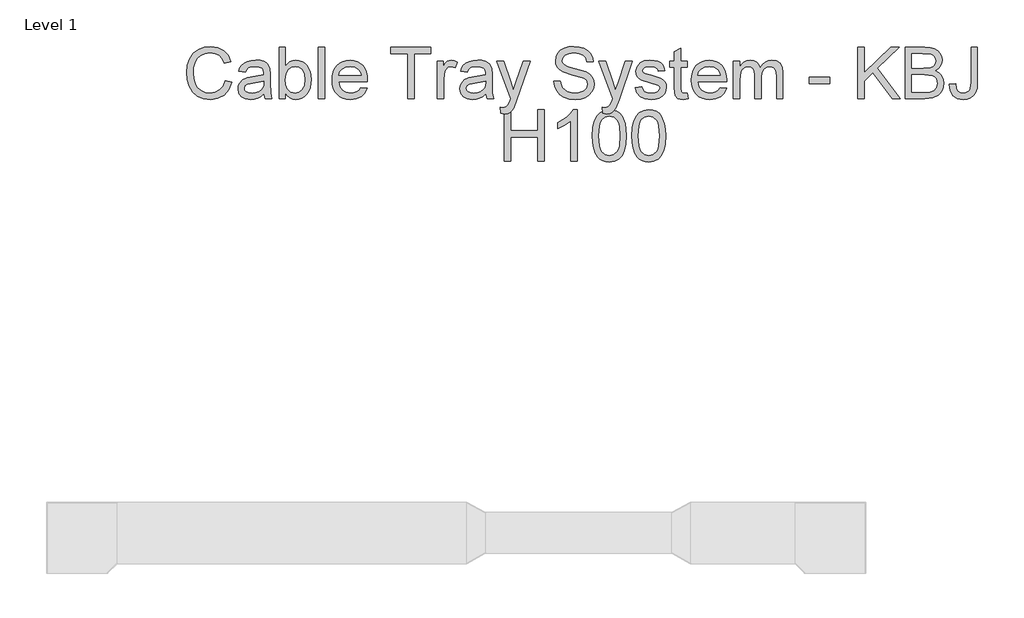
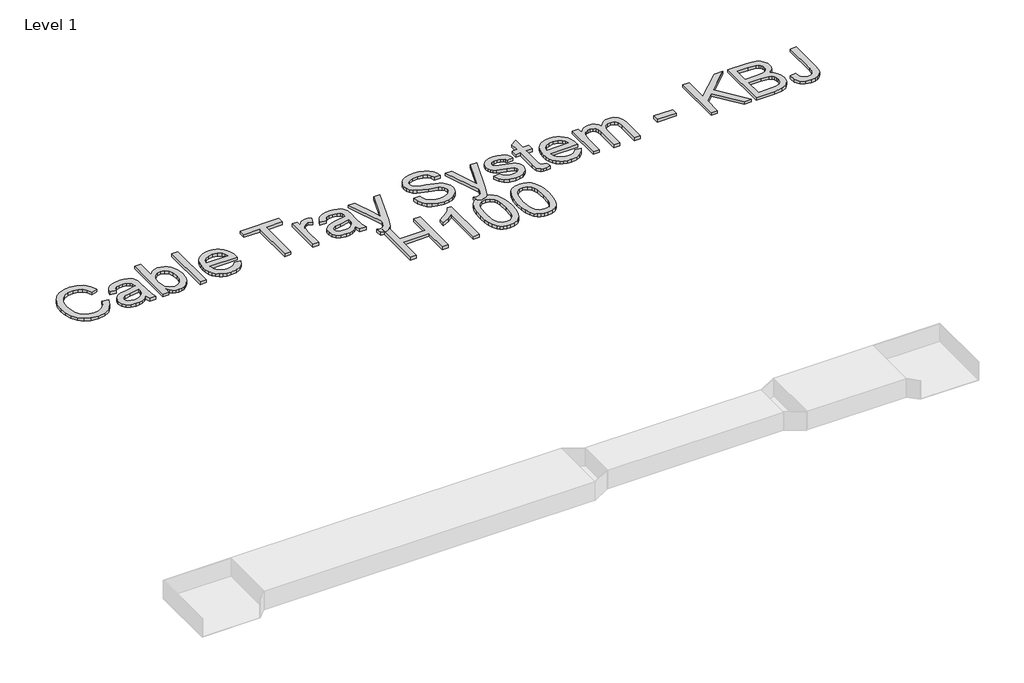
# One storey, part 104 of 106: 1 proxy.
"""IFC4 building model written with IfcOpenShell, lengths in millimetres."""

from ifc_helpers import new_model, si_unit, origin, origin_with_axes, place, context, project, spatial, polyline, outline, extrude, element, save

model = new_model("IFC4")

# Units and contexts
model_context = context("Model", 3, world=origin())
ifc_project = project(units=[si_unit("LENGTHUNIT", "METRE", prefix="MILLI")], contexts=[model_context])

# Site, building, storey
site = spatial("IfcSite", under=ifc_project)
building = spatial("IfcBuilding", under=site)
storey = spatial("IfcBuildingStorey", under=building, Name="Level 1", Elevation=0.0)

# Proxy
placement = place(None, origin())
element("IfcBuildingElementProxy", 1, Name="250mm Arial 3", ObjectType="250mm Arial 3", at=placement, inside=storey, context=model_context, shape_type="SweptSolid", body=[
    extrude(outline(polyline([(157679.2490117, 71592.4106539), (157710.6416086, 71584.31725), (157696.1562551, 71547.7359841), (157673.4242135, 71521.01089), (157643.5644582, 71504.6631338), (157607.6959637, 71499.2138818), (157571.2833103, 71503.3372258), (157542.3662527, 71515.7072579), (157520.2013625, 71535.8947824), (157504.0452115, 71563.4706036), (157494.1813755, 71595.8902044), (157490.8934302, 71630.6090677), (157494.6105712, 71667.2286547), (157505.7619942, 71698.8511778), (157523.7652193, 71724.472626), (157548.0377668, 71743.0889877), (157576.8245329, 71754.4243517), (157608.370414, 71758.2028064), (157642.7903732, 71753.3130415), (157671.2475783, 71738.643747), (157692.8529813, 71715.0992993), (157706.717534, 71683.584075), (157675.3249371, 71676.1038078), (157664.4417614, 71698.9967978), (157649.5731974, 71714.7007605), (157630.5353042, 71723.7828472), (157607.1441407, 71726.8102095), (157580.1814561, 71723.4532863), (157558.0318943, 71713.3825166), (157541.2242857, 71697.6555613), (157530.2874605, 71677.3300811), (157524.2863855, 71654.3527848), (157522.2860271, 71630.6703814), (157524.6542675, 71601.6690174), (157531.7589885, 71576.5917281), (157543.8684375, 71556.3965394), (157561.2508618, 71542.0414774), (157582.089844, 71533.4652284), (157604.5689667, 71530.6064787), (157630.7728947, 71534.4998965), (157652.6082239, 71546.1801498), (157669.0939358, 71565.5246114), (157679.2490117, 71592.4106539)])), origin_with_axes(), (0.0, 0.0, 1.0), 15.0),
    extrude(outline(polyline([(157867.6045933, 71526.6824041), (157852.6057377, 71513.8218627), (157837.1623582, 71505.406562), (157820.9219009, 71500.7620518), (157803.5318124, 71499.2138818), (157777.2972276, 71502.938687), (157757.9451019, 71514.1131026), (157746.0119296, 71531.0816596), (157742.0342056, 71552.1888891), (157743.5363904, 71565.2027147), (157748.0429448, 71577.0209238), (157763.8312138, 71595.0471415), (157785.812163, 71605.3478374), (157812.974117, 71610.0689897), (157867.4206523, 71620.8601949), (157867.6045933, 71627.8499528), (157865.4432865, 71641.8601254), (157858.9593664, 71651.0265185), (157844.4586844, 71657.8323354), (157824.2558315, 71660.100941), (157805.5551634, 71658.591092), (157792.4953526, 71654.0615449), (157783.5895426, 71645.6845653), (157777.3508771, 71632.6324187), (157745.9582802, 71636.5564933), (157751.4075322, 71653.7243198), (157759.5392572, 71667.2133262), (157771.1122116, 71677.5293505), (157786.8851521, 71685.1782303), (157806.1759643, 71689.914711), (157828.3025334, 71691.4935379), (157849.524726, 71690.098652), (157866.3476631, 71685.9139943), (157879.0319277, 71679.6216794), (157887.838103, 71671.9038217), (157897.4643485, 71650.5973228), (157898.9971902, 71623.1288005), (157898.9971902, 71584.0719953), (157900.5913455, 71529.5334895), (157906.8453394, 71503.1379564), (157875.4527425, 71503.1379564), (157867.6045933, 71526.6824041)]), holes=[polyline([(157867.6045933, 71589.4675979), (157816.9595053, 71579.8413524), (157789.9508354, 71574.7523181), (157777.7187591, 71566.4749732), (157773.4268025, 71554.3961811), (157775.764386, 71545.0611754), (157782.7771365, 71537.4122956), (157794.3117699, 71532.3079329), (157810.215002, 71530.6064787), (157827.0762601, 71532.4842097), (157841.9754809, 71538.1174028), (157854.0542731, 71546.4177403), (157862.4542453, 71556.2969047), (157866.1790505, 71566.4749732), (157867.4206523, 71580.5771164), (157867.6045933, 71589.4675979)])]), origin_with_axes(), (0.0, 0.0, 1.0), 15.0),
    extrude(outline(polyline([(157973.5546079, 71503.1379564), (157942.1620109, 71503.1379564), (157942.1620109, 71754.2787318), (157973.5546079, 71754.2787318), (157973.5546079, 71661.1432733), (157983.8782964, 71674.4215141), (157995.5355571, 71683.9059718), (158008.52639, 71689.5966464), (158022.8507952, 71691.4935379), (158039.0222746, 71689.7844195), (158054.3047058, 71684.6570642), (158067.8243691, 71676.4333687), (158078.7075448, 71665.4352299), (158093.6987361, 71635.5448178), (158099.1249956, 71598.1128248), (158093.5071309, 71556.2049342), (158086.4848001, 71539.2746982), (158076.653537, 71525.0269351), (158064.8525724, 71513.7337243), (158051.921137, 71505.6671451), (158037.859231, 71500.8271976), (158022.6668542, 71499.2138818), (158007.8711002, 71501.2947143), (157994.7538078, 71507.5372119), (157983.314977, 71517.9413746), (157973.5546079, 71532.5072023), (157973.5546079, 71503.1379564)]), holes=[polyline([(157973.5546079, 71596.6412968), (157975.7005862, 71570.4603615), (157982.1385211, 71552.7407121), (157998.585912, 71536.140037), (158019.9690529, 71530.6064787), (158038.0872412, 71534.6838375), (158053.5689418, 71546.9159138), (158064.1915344, 71567.2260656), (158067.7323986, 71595.5376509), (158064.3371544, 71624.2631033), (158054.1514216, 71644.3433289), (158039.1525661, 71656.161538), (158021.3179536, 71660.100941), (158003.1997653, 71656.0235822), (157987.7180647, 71643.7915059), (157977.0954721, 71623.8492361), (157973.5546079, 71596.6412968)])]), origin_with_axes(), (0.0, 0.0, 1.0), 15.0),
    extrude(outline(polyline([(158134.4416671, 71503.1379564), (158134.4416671, 71754.2787318), (158165.834264, 71754.2787318), (158165.834264, 71503.1379564), (158134.4416671, 71503.1379564)])), origin_with_axes(), (0.0, 0.0, 1.0), 15.0),
    extrude(outline(polyline([(158342.0497397, 71558.075001), (158372.8292, 71554.1509264), (158361.7390907, 71530.9590323), (158344.0424338, 71513.6225933), (158320.1377684, 71502.8160596), (158290.423633, 71499.2138818), (158270.9450478, 71500.7678), (158253.5894483, 71505.4295547), (158238.3568344, 71513.1991458), (158225.2472062, 71524.0765733), (158214.7050878, 71537.759101), (158207.1750032, 71553.9439928), (158202.6569525, 71572.6312485), (158201.1509355, 71593.8208682), (158202.6722809, 71615.7290074), (158207.2363169, 71635.0389801), (158214.8430436, 71651.7507861), (158225.4924609, 71665.8644256), (158238.5676001, 71677.0771622), (158253.4514925, 71685.0862598), (158270.1441381, 71689.8917184), (158288.6455367, 71691.4935379), (158306.5510432, 71689.8955505), (158322.7435992, 71685.1015883), (158337.2232046, 71677.1116512), (158349.9898594, 71665.9257393), (158360.4112666, 71651.8427566), (158367.8551288, 71635.1616074), (158372.3214462, 71615.8822916), (158373.8102186, 71594.0048092), (158373.6262776, 71585.5435233), (158232.5435325, 71585.5435233), (158237.9774561, 71562.0450609), (158250.6004071, 71544.7699355), (158268.81823, 71534.1473429), (158291.0367697, 71530.6064787), (158307.7447437, 71532.2466193), (158321.81623, 71537.1670409), (158333.2512286, 71545.6743121), (158342.0497397, 71558.075001)]), holes=[polyline([(158232.5435325, 71616.9361202), (158342.4176217, 71616.9361202), (158338.1716503, 71633.5214669), (158329.8483202, 71645.3856612), (158311.5461909, 71656.4221211), (158288.5229094, 71660.100941), (158267.3620305, 71657.1655493), (158249.8646431, 71648.359374), (158237.7015446, 71634.632777), (158232.5435325, 71616.9361202)])]), origin_with_axes(), (0.0, 0.0, 1.0), 15.0),
    extrude(outline(polyline([(158570.0139494, 71503.1379564), (158570.0139494, 71722.8861348), (158487.6083825, 71722.8861348), (158487.6083825, 71754.2787318), (158683.8121132, 71754.2787318), (158683.8121132, 71722.8861348), (158601.4065463, 71722.8861348), (158601.4065463, 71503.1379564), (158570.0139494, 71503.1379564)])), origin_with_axes(), (0.0, 0.0, 1.0), 15.0),
    extrude(outline(polyline([(158715.2047101, 71503.1379564), (158715.2047101, 71687.5694633), (158742.6732324, 71687.5694633), (158742.6732324, 71660.284882), (158752.8206441, 71676.1038078), (158762.1709782, 71685.423485), (158781.7913513, 71691.4935379), (158797.4263361, 71689.0716481), (158813.3065755, 71681.8059787), (158802.8219387, 71653.6630061), (158780.7490189, 71660.100941), (158771.3756923, 71658.5527709), (158762.9987127, 71653.9082608), (158751.6863413, 71636.7404343), (158746.5973071, 71600.0748621), (158746.5973071, 71503.1379564), (158715.2047101, 71503.1379564)])), origin_with_axes(), (0.0, 0.0, 1.0), 15.0),
    extrude(outline(polyline([(158950.6491871, 71526.6824041), (158935.6503315, 71513.8218627), (158920.206952, 71505.406562), (158903.9664947, 71500.7620518), (158886.5764062, 71499.2138818), (158860.3418214, 71502.938687), (158840.9896957, 71514.1131026), (158829.0565234, 71531.0816596), (158825.0787994, 71552.1888891), (158826.5809842, 71565.2027147), (158831.0875386, 71577.0209238), (158846.8758076, 71595.0471415), (158868.8567568, 71605.3478374), (158896.0187108, 71610.0689897), (158950.4652461, 71620.8601949), (158950.6491871, 71627.8499528), (158948.4878803, 71641.8601254), (158942.0039602, 71651.0265185), (158927.5032782, 71657.8323354), (158907.3004253, 71660.100941), (158888.5997572, 71658.591092), (158875.5399464, 71654.0615449), (158866.6341364, 71645.6845653), (158860.3954709, 71632.6324187), (158829.002874, 71636.5564933), (158834.452126, 71653.7243198), (158842.583851, 71667.2133262), (158854.1568054, 71677.5293505), (158869.9297459, 71685.1782303), (158889.2205581, 71689.914711), (158911.3471272, 71691.4935379), (158932.5693198, 71690.098652), (158949.3922569, 71685.9139943), (158962.0765215, 71679.6216794), (158970.8826968, 71671.9038217), (158980.5089423, 71650.5973228), (158982.041784, 71623.1288005), (158982.041784, 71584.0719953), (158983.6359393, 71529.5334895), (158989.8899332, 71503.1379564), (158958.4973363, 71503.1379564), (158950.6491871, 71526.6824041)]), holes=[polyline([(158950.6491871, 71589.4675979), (158900.0040991, 71579.8413524), (158872.9954292, 71574.7523181), (158860.7633529, 71566.4749732), (158856.4713963, 71554.3961811), (158858.8089798, 71545.0611754), (158865.8217303, 71537.4122956), (158877.3563637, 71532.3079329), (158893.2595958, 71530.6064787), (158910.1208539, 71532.4842097), (158925.0200747, 71538.1174028), (158937.0988669, 71546.4177403), (158945.4988391, 71556.2969047), (158949.2236443, 71566.4749732), (158950.4652461, 71580.5771164), (158950.6491871, 71589.4675979)])]), origin_with_axes(), (0.0, 0.0, 1.0), 15.0),
    extrude(outline(polyline([(159025.2066047, 71432.5046133), (159021.2825301, 71462.7322506), (159037.2240833, 71459.9731356), (159052.1233041, 71463.4373577), (159061.2590403, 71473.0942601), (159069.8429535, 71496.2095122), (159072.2955001, 71503.8124067), (159005.5862317, 71687.5694633), (159038.6342976, 71687.5694633), (159074.0735964, 71585.1143277), (159086.3976433, 71544.1567989), (159098.7216901, 71580.3931754), (159135.080694, 71687.5694633), (159167.8835052, 71687.5694633), (159103.688097, 71498.7233725), (159087.0107799, 71457.7658437), (159078.472852, 71444.6907044), (159068.8006212, 71435.6316103), (159057.5802203, 71430.3433066), (159044.3977822, 71428.5805387), (159025.2066047, 71432.5046133)])), origin_with_axes(), (0.0, 0.0, 1.0), 15.0),
    extrude(outline(polyline([(159284.1955293, 71589.4675979), (159315.5881263, 71589.4675979), (159319.1903041, 71572.0468526), (159325.7048811, 71558.0443442), (159335.8676213, 71546.9312422), (159350.4142885, 71538.1787164), (159368.1952516, 71532.4995381), (159388.0608793, 71530.6064787), (159405.5506025, 71532.0396856), (159420.8636906, 71536.3393065), (159433.2720437, 71543.1451234), (159442.0475621, 71552.0969186), (159447.2668879, 71562.3746218), (159449.0066632, 71573.1581628), (159443.7950016, 71592.7478791), (159435.8548819, 71600.4963936), (159422.4578459, 71607.0033064), (159376.748508, 71618.990128), (159327.5442911, 71634.4718287), (159311.9169705, 71645.0331076), (159300.8421896, 71657.8323354), (159294.2433063, 71672.5936004), (159292.0436786, 71689.0409913), (159294.7644725, 71707.4274268), (159302.9268543, 71724.5722607), (159316.3162261, 71739.1035995), (159334.71799, 71749.64955), (159356.8062381, 71756.0644923), (159381.2550624, 71758.2028064), (159407.7425661, 71755.9648576), (159430.9191318, 71749.2510112), (159449.957025, 71738.1992229), (159464.0285113, 71722.9474485), (159472.9343213, 71704.4460498), (159476.4751855, 71683.6453887), (159445.0825886, 71683.6453887), (159439.319104, 71702.3767136), (159427.3016255, 71715.8963769), (159408.5243153, 71724.0817513), (159382.4813357, 71726.8102095), (159355.8252195, 71724.1124082), (159337.5384186, 71716.0190043), (159326.9618113, 71704.1088247), (159323.4362755, 71689.9606963), (159325.9348074, 71677.8972325), (159333.430403, 71668.1943449), (159351.1500525, 71659.5184612), (159384.6886277, 71650.6586365), (159440.238809, 71634.9010243), (159458.1347352, 71623.5120109), (159470.6197304, 71609.455853), (159477.9543777, 71592.8858348), (159480.3992601, 71573.9552405), (159477.5864957, 71554.6031147), (159469.1482024, 71536.4006201), (159455.4292697, 71520.7349785), (159436.7745868, 71508.9934115), (159414.3414494, 71501.6587642), (159389.2871526, 71499.2138818), (159358.530685, 71501.8503694), (159333.2158052, 71509.7598323), (159313.0512733, 71522.9729273), (159297.7458495, 71541.5203112), (159287.9203345, 71564.1143971), (159284.1955293, 71589.4675979)])), origin_with_axes(), (0.0, 0.0, 1.0), 15.0),
    extrude(outline(polyline([(159523.5640809, 71432.5046133), (159519.6400063, 71462.7322506), (159535.5815594, 71459.9731356), (159550.4807802, 71463.4373577), (159559.6165164, 71473.0942601), (159568.2004296, 71496.2095122), (159570.6529763, 71503.8124067), (159503.9437078, 71687.5694633), (159536.9917737, 71687.5694633), (159572.4310726, 71585.1143277), (159584.7551194, 71544.1567989), (159597.0791662, 71580.3931754), (159633.4381701, 71687.5694633), (159666.2409813, 71687.5694633), (159602.0455732, 71498.7233725), (159585.3682561, 71457.7658437), (159576.8303281, 71444.6907044), (159567.1580973, 71435.6316103), (159555.9376965, 71430.3433066), (159542.7552583, 71428.5805387), (159523.5640809, 71432.5046133)])), origin_with_axes(), (0.0, 0.0, 1.0), 15.0),
    extrude(outline(polyline([(159680.5270655, 71558.075001), (159711.9196624, 71561.9990756), (159716.8707409, 71548.5713828), (159726.4510012, 71538.6998826), (159740.7217569, 71532.6298297), (159759.7443218, 71530.6064787), (159778.5369604, 71532.4612171), (159791.7500554, 71538.0254323), (159799.5675478, 71546.0881793), (159802.1733786, 71555.4385134), (159799.5522193, 71563.4399468), (159791.6887417, 71569.5406565), (159759.3764398, 71578.4924517), (159712.1036034, 71593.851525), (159700.1397744, 71601.5693827), (159691.4715548, 71611.7857723), (159686.2062438, 71623.8492361), (159684.4511401, 71637.1083163), (159690.0919974, 71660.4994798), (159705.4817275, 71678.3724134), (159725.4393257, 71687.6614338), (159752.4479955, 71691.4935379), (159772.8807747, 71689.9530321), (159790.6464094, 71685.3315145), (159804.9324935, 71678.0811735), (159814.9266211, 71668.6541974), (159821.548497, 71656.3531432), (159825.7178262, 71640.4805679), (159794.3252293, 71636.5564933), (159790.3628337, 71646.4356577), (159782.5223486, 71653.8776039), (159770.7271322, 71658.5451067), (159754.9005422, 71660.100941), (159736.8743244, 71658.6140846), (159724.8568459, 71654.1535154), (159718.0970142, 71647.7155805), (159715.843737, 71640.2966269), (159719.5838706, 71631.1608907), (159731.2947808, 71624.2324465), (159758.3341075, 71617.5492569), (159804.4113274, 71602.7726634), (159816.58209, 71595.7062634), (159825.8097967, 71586.0340326), (159831.6269308, 71573.7253142), (159833.5659755, 71558.7494513), (159831.2897056, 71543.2677507), (159824.4608961, 71528.7057551), (159813.34013, 71516.2054314), (159798.1879903, 71506.9087468), (159779.885861, 71501.137598), (159759.3151261, 71499.2138818), (159727.6619461, 71502.9233586), (159704.5620225, 71514.0517889), (159689.1416355, 71532.4765455), (159680.5270655, 71558.075001)])), origin_with_axes(), (0.0, 0.0, 1.0), 15.0),
    extrude(outline(polyline([(159935.5919155, 71529.3188917), (159939.5159901, 71502.2182514), (159916.0328561, 71499.2138818), (159900.9650227, 71500.5167972), (159889.7292934, 71504.4255434), (159876.6081689, 71518.0984909), (159872.8067216, 71553.7217307), (159872.8067216, 71656.1768664), (159849.2622739, 71656.1768664), (159849.2622739, 71687.5694633), (159872.8067216, 71687.5694633), (159872.8067216, 71732.3897531), (159904.1993186, 71750.8451665), (159904.1993186, 71687.5694633), (159935.5919155, 71687.5694633), (159935.5919155, 71656.1768664), (159904.1993186, 71656.1768664), (159904.1993186, 71554.6414357), (159905.8547875, 71538.4546279), (159911.2197333, 71532.7218002), (159921.918968, 71530.6064787), (159935.5919155, 71529.3188917)])), origin_with_axes(), (0.0, 0.0, 1.0), 15.0),
    extrude(outline(polyline([(160096.1110927, 71558.075001), (160126.890553, 71554.1509264), (160115.8004437, 71530.9590323), (160098.1037868, 71513.6225933), (160074.1991214, 71502.8160596), (160044.484986, 71499.2138818), (160025.0064008, 71500.7678), (160007.6508013, 71505.4295547), (159992.4181874, 71513.1991458), (159979.3085592, 71524.0765733), (159968.7664408, 71537.759101), (159961.2363562, 71553.9439928), (159956.7183055, 71572.6312485), (159955.2122886, 71593.8208682), (159956.7336339, 71615.7290074), (159961.2976699, 71635.0389801), (159968.9043966, 71651.7507861), (159979.5538139, 71665.8644256), (159992.6289531, 71677.0771622), (160007.5128455, 71685.0862598), (160024.2054911, 71689.8917184), (160042.7068897, 71691.4935379), (160060.6123962, 71689.8955505), (160076.8049522, 71685.1015883), (160091.2845576, 71677.1116512), (160104.0512124, 71665.9257393), (160114.4726196, 71651.8427566), (160121.9164818, 71635.1616074), (160126.3827992, 71615.8822916), (160127.8715716, 71594.0048092), (160127.6876306, 71585.5435233), (159986.6048855, 71585.5435233), (159992.0388091, 71562.0450609), (160004.6617601, 71544.7699355), (160022.879583, 71534.1473429), (160045.0981227, 71530.6064787), (160061.8060967, 71532.2466193), (160075.877583, 71537.1670409), (160087.3125817, 71545.6743121), (160096.1110927, 71558.075001)]), holes=[polyline([(159986.6048855, 71616.9361202), (160096.4789747, 71616.9361202), (160092.2330033, 71633.5214669), (160083.9096732, 71645.3856612), (160065.6075439, 71656.4221211), (160042.5842624, 71660.100941), (160021.4233835, 71657.1655493), (160003.9259961, 71648.359374), (159991.7628976, 71634.632777), (159986.6048855, 71616.9361202)])]), origin_with_axes(), (0.0, 0.0, 1.0), 15.0),
    extrude(outline(polyline([(160159.2641685, 71503.1379564), (160159.2641685, 71687.5694633), (160190.6567655, 71687.5694633), (160190.6567655, 71657.2191987), (160200.09907, 71671.1603935), (160212.2391758, 71682.0818902), (160226.6632157, 71689.140626), (160242.9573224, 71691.4935379), (160260.4163888, 71689.0946407), (160274.411233, 71681.8979492), (160284.8652131, 71670.3786442), (160291.7016868, 71655.0119067), (160303.1443497, 71670.9726204), (160316.1964963, 71682.3731301), (160330.8581267, 71689.213436), (160347.1292407, 71691.4935379), (160370.7273379, 71687.6997549), (160388.17874, 71676.3184056), (160398.962281, 71657.0429219), (160402.5567947, 71629.5667354), (160402.5567947, 71503.1379564), (160371.1641978, 71503.1379564), (160371.1641978, 71616.0777289), (160368.2517986, 71642.2893211), (160357.7058481, 71655.1958477), (160339.7716008, 71660.100941), (160322.7647228, 71656.9586156), (160308.9001701, 71647.5316395), (160299.6801276, 71631.1762191), (160296.6067801, 71607.248561), (160296.6067801, 71503.1379564), (160265.2141832, 71503.1379564), (160265.2141832, 71619.5726079), (160263.3977658, 71637.3229141), (160257.9485137, 71649.9841861), (160248.3605892, 71657.5717523), (160234.1281546, 71660.100941), (160222.034034, 71658.4148152), (160210.8902752, 71653.3564378), (160201.6932253, 71645.048436), (160195.4392314, 71633.6134374), (160190.6567655, 71596.1507875), (160190.6567655, 71503.1379564), (160159.2641685, 71503.1379564)])), origin_with_axes(), (0.0, 0.0, 1.0), 15.0),
    extrude(outline(polyline([(160532.051257, 71577.6953741), (160532.051257, 71609.087971), (160630.1531224, 71609.087971), (160630.1531224, 71577.6953741), (160532.051257, 71577.6953741)])), origin_with_axes(), (0.0, 0.0, 1.0), 15.0),
    extrude(outline(polyline([(160767.4957339, 71503.1379564), (160767.4957339, 71754.2787318), (160798.8883308, 71754.2787318), (160798.8883308, 71631.3448317), (160927.6470291, 71754.2787318), (160971.5476139, 71754.2787318), (160863.3903073, 71651.0265185), (160975.4716885, 71503.1379564), (160937.0893337, 71503.1379564), (160841.1334466, 71629.8119901), (160798.8883308, 71589.4675979), (160798.8883308, 71503.1379564), (160767.4957339, 71503.1379564)])), origin_with_axes(), (0.0, 0.0, 1.0), 15.0),
    extrude(outline(polyline([(160999.0161362, 71503.1379564), (160999.0161362, 71754.2787318), (161094.8493959, 71754.2787318), (161121.2066081, 71752.4316576), (161141.7850072, 71746.890435), (161157.5579477, 71737.5171084), (161169.4987841, 71724.1737218), (161177.0173724, 71708.4774234), (161179.5235685, 71692.0453609), (161177.4159112, 71676.9238781), (161171.0929394, 71662.7067718), (161160.5086679, 71650.2677618), (161145.6171113, 71640.4805679), (161163.4057386, 71631.1915475), (161176.5498557, 71617.0587476), (161184.6662522, 71599.0172014), (161187.3717177, 71578.0019424), (161185.5246435, 71560.4892266), (161179.983421, 71544.2487694), (161171.7137403, 71530.4378661), (161161.6812917, 71520.2138123), (161134.3660536, 71507.4605698), (161094.113632, 71503.1379564), (160999.0161362, 71503.1379564)]), holes=[polyline([(161030.4087331, 71652.2527918), (161087.7370107, 71652.2527918), (161121.2142723, 71654.9505931), (161132.9328467, 71659.6027675), (161141.3558115, 71666.5695328), (161146.4371816, 71675.74359), (161148.1309716, 71687.0176403), (161146.5521447, 71697.9621297), (161141.815664, 71707.4964047), (161134.1361273, 71714.9383509), (161123.7281326, 71719.6058537), (161083.3837404, 71722.8861348), (161030.4087331, 71722.8861348), (161030.4087331, 71652.2527918)]), polyline([(161030.4087331, 71534.5305533), (161094.7880823, 71534.5305533), (161118.0872753, 71535.7568266), (161137.7996189, 71542.5933004), (161150.8594297, 71556.5421594), (161155.9791208, 71577.6953741), (161154.476936, 71590.8164986), (161149.9703816, 71602.0982131), (161142.0992397, 71610.9197168), (161130.5032926, 71616.6602087), (161091.722399, 71620.8601949), (161030.4087331, 71620.8601949), (161030.4087331, 71534.5305533)])]), origin_with_axes(), (0.0, 0.0, 1.0), 15.0),
    extrude(outline(polyline([(161214.84024, 71573.6486721), (161246.232837, 71577.6953741), (161249.4977897, 71554.871362), (161256.9627285, 71540.6006062), (161268.3670703, 71533.1050106), (161283.4502321, 71530.6064787), (161295.0461792, 71532.0243572), (161304.940672, 71536.2779928), (161312.5742234, 71542.9765108), (161317.3873462, 71551.7290366), (161320.7902546, 71582.845722), (161320.7902546, 71754.2787318), (161352.1828516, 71754.2787318), (161352.1828516, 71583.397545), (161350.2897921, 71555.4461776), (161344.6106138, 71534.6225238), (161334.8157557, 71519.4090705), (161320.5756568, 71508.2883043), (161302.695059, 71501.4824874), (161281.9787042, 71499.2138818), (161252.9620118, 71503.896713), (161231.6401845, 71517.9452067), (161218.703001, 71541.2367355), (161214.84024, 71573.6486721)])), origin_with_axes(), (0.0, 0.0, 1.0), 15.0),
    extrude(outline(polyline([(159040.9029032, 71198.2009118), (159040.9029032, 71449.3416872), (159072.2955001, 71449.3416872), (159072.2955001, 71347.3157472), (159205.714037, 71347.3157472), (159205.714037, 71449.3416872), (159237.106634, 71449.3416872), (159237.106634, 71198.2009118), (159205.714037, 71198.2009118), (159205.714037, 71315.9231502), (159072.2955001, 71315.9231502), (159072.2955001, 71198.2009118), (159040.9029032, 71198.2009118)])), origin_with_axes(), (0.0, 0.0, 1.0), 15.0),
    extrude(outline(polyline([(159397.9936932, 71198.2009118), (159366.6010963, 71198.2009118), (159366.6010963, 71393.9141332), (159336.8639683, 71372.7302617), (159303.8159024, 71356.880679), (159303.8159024, 71386.5564933), (159328.4716603, 71399.9688577), (159349.8318087, 71415.9257393), (159366.6700741, 71432.8942963), (159377.7601835, 71449.3416872), (159397.9936932, 71449.3416872), (159397.9936932, 71198.2009118)])), origin_with_axes(), (0.0, 0.0, 1.0), 15.0),
    extrude(outline(polyline([(159472.5511109, 71321.7479485), (159474.8580376, 71361.9467207), (159481.7788176, 71394.0061037), (159493.2444731, 71418.4166069), (159509.1860262, 71435.6687397), (159529.7184401, 71445.9234503), (159554.9566778, 71449.3416872), (159574.3011394, 71447.3183362), (159591.62225, 71441.2482833), (159606.1076035, 71431.3691189), (159616.944794, 71417.9184334), (159631.6600738, 71380.7623519), (159635.936702, 71355.0489333), (159637.3622447, 71321.7479485), (159635.0783107, 71281.7791026), (159628.2265085, 71249.7963616), (159616.8298309, 71225.3628658), (159600.9112704, 71208.0417552), (159580.3328713, 71197.7180667), (159554.9566778, 71194.2768372), (159537.666224, 71195.7713578), (159522.3378076, 71200.2549196), (159508.9714284, 71207.7275226), (159497.5670866, 71218.1891669), (159486.6225972, 71237.1006007), (159478.8051048, 71260.6642089), (159474.1146094, 71288.8799915), (159472.5511109, 71321.7479485)]), holes=[polyline([(159503.9437078, 71321.8092622), (159507.6225278, 71272.4287685), (159512.2210527, 71255.5387696), (159518.6589876, 71243.848936), (159535.0910501, 71230.2143096), (159554.9566778, 71225.6694341), (159574.8223055, 71230.229638), (159591.254368, 71243.9102497), (159597.6923029, 71255.6192438), (159602.2908278, 71272.5054106), (159605.9696478, 71321.8092622), (159602.4134552, 71370.0784456), (159597.9682144, 71386.912879), (159591.7448773, 71398.8805402), (159575.3434717, 71413.1819527), (159554.5887958, 71417.9490902), (159534.9377659, 71413.7491041), (159519.1494969, 71401.1491458), (159512.4969642, 71388.1199918), (159507.7451551, 71370.5536265), (159503.9437078, 71321.8092622)])]), origin_with_axes(), (0.0, 0.0, 1.0), 15.0),
    extrude(outline(polyline([(159664.830767, 71321.7479485), (159667.1376937, 71361.9467207), (159674.0584737, 71394.0061037), (159685.5241293, 71418.4166069), (159701.4656824, 71435.6687397), (159721.9980962, 71445.9234503), (159747.2363339, 71449.3416872), (159766.5807955, 71447.3183362), (159783.9019061, 71441.2482833), (159798.3872597, 71431.3691189), (159809.2244501, 71417.9184334), (159823.9397299, 71380.7623519), (159828.2163581, 71355.0489333), (159829.6419009, 71321.7479485), (159827.3579668, 71281.7791026), (159820.5061647, 71249.7963616), (159809.109487, 71225.3628658), (159793.1909265, 71208.0417552), (159772.6125274, 71197.7180667), (159747.2363339, 71194.2768372), (159729.9458802, 71195.7713578), (159714.6174637, 71200.2549196), (159701.2510845, 71207.7275226), (159689.8467427, 71218.1891669), (159678.9022533, 71237.1006007), (159671.0847609, 71260.6642089), (159666.3942655, 71288.8799915), (159664.830767, 71321.7479485)]), holes=[polyline([(159696.2233639, 71321.8092622), (159699.9021839, 71272.4287685), (159704.5007088, 71255.5387696), (159710.9386438, 71243.848936), (159727.3707062, 71230.2143096), (159747.2363339, 71225.6694341), (159767.1019617, 71230.229638), (159783.5340241, 71243.9102497), (159789.9719591, 71255.6192438), (159794.570484, 71272.5054106), (159798.2493039, 71321.8092622), (159794.6931113, 71370.0784456), (159790.2478705, 71386.912879), (159784.0245335, 71398.8805402), (159767.6231278, 71413.1819527), (159746.8684519, 71417.9490902), (159727.217422, 71413.7491041), (159711.4291531, 71401.1491458), (159704.7766203, 71388.1199918), (159700.0248112, 71370.5536265), (159696.2233639, 71321.8092622)])]), origin_with_axes(), (0.0, 0.0, 1.0), 15.0),
])

save(model, "model.ifc")
